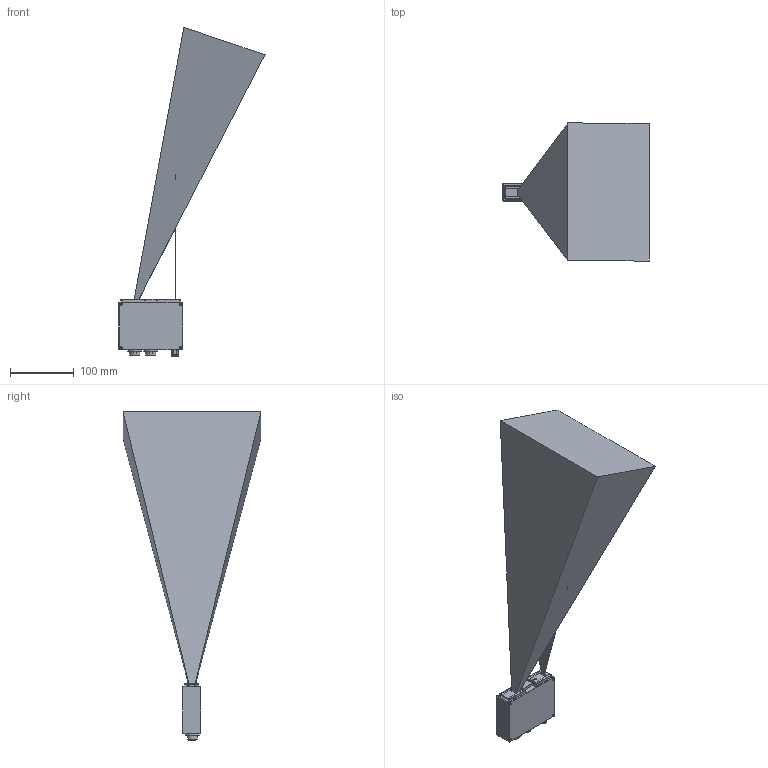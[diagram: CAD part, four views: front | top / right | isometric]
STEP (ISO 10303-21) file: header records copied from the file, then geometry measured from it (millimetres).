
FILE_DESCRIPTION((''),'2;1');
FILE_NAME('BLGDJ-2-240827_16','2024-10-31T',('qqwan'),(''),'PRO/ENGINEER BY PARAMETRIC TECHNOLOGY CORPORATION, 2010280','PRO/ENGINEER BY PARAMETRIC TECHNOLOGY CORPORATION, 2010280','');
FILE_SCHEMA(('CONFIG_CONTROL_DESIGN'));
Length unit declared in the file: millimetre
Products named in the file (1): BLGDJ-2-240827_16
Bounding box: 228.9 x 216.07 x 516.27 mm (x, y, z)
Volume: 4441609.6 mm3; surface area: 260957.1 mm2
Topology: 2 solids, 42 shells, 988 faces, 2590 edges, 1669 vertices
Faces by surface type: cylinder 407, plane 387, cone 144, sphere 28, torus 22
Entity records: 31083 total; most frequent: CARTESIAN_POINT 6277, DIRECTION 5486, ORIENTED_EDGE 4880, EDGE_CURVE 2502, AXIS2_PLACEMENT_3D 2091, VERTEX_POINT 1669, VECTOR 1304, LINE 1304
